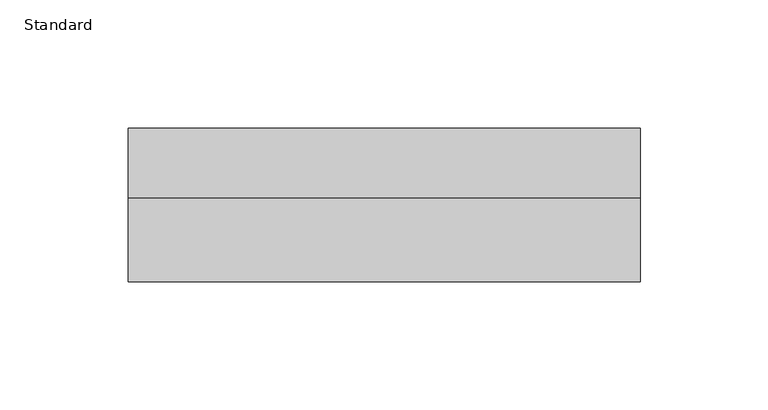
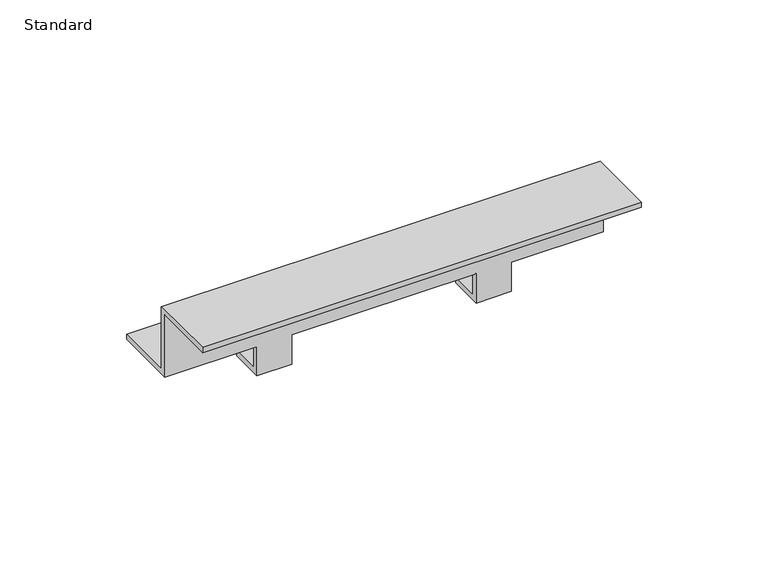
"""IFC4 building model written with IfcOpenShell, lengths in millimetres: electric appliance geometry, Bracket-Wall-Cablofil : Standard."""

from ifc_helpers import new_model, si_unit, origin, place, context, project, spatial, faceted_brep, source, transform, mapped, element, save


def standard_966c1fd9(model_context):
    return source(origin(), model_context, "Body", "Brep", [
        faceted_brep([(42.0, 15.93, 0.0), (42.0, 0.0, 0.0), (42.0, 0.0, 14.0), (42.0, 2.5, 14.0), (42.0, 2.5, 2.5), (42.0, 15.93, 2.5), (58.0, 15.93, 0.0), (58.0, 15.93, 2.5), (58.0, 2.5, 2.5), (58.0, 2.5, 14.0), (58.0, 0.0, 14.0), (58.0, 0.0, 0.0), (100.0, 0.0, 14.0), (100.0, 0.0, 44.0), (-100.0, 0.0, 44.0), (-100.0, 0.0, 14.0), (-58.0, 0.0, 14.0), (-58.0, 0.0, 0.0), (-42.0, 0.0, 0.0), (-42.0, 0.0, 14.0), (-58.0, 15.93, 0.0), (-58.0, 2.5, 14.0), (-58.0, 2.5, 2.5), (-58.0, 15.93, 2.5), (-42.0, 15.93, 0.0), (-42.0, 15.93, 2.5), (-42.0, 2.5, 2.5), (-42.0, 2.5, 14.0), (-100.0, -30.0, 44.0), (-100.0, -30.0, 46.5), (-100.0, 2.5, 46.5), (-100.0, 2.5, 16.5), (-100.0, 30.0, 16.5), (-100.0, 30.0, 14.0), (100.0, -30.0, 44.0), (100.0, 30.0, 14.0), (100.0, 30.0, 16.5), (100.0, 2.5, 16.5), (100.0, 2.5, 46.5), (100.0, -30.0, 46.5)], [[[0, 1, 2, 3, 4, 5]], [[6, 7, 8, 9, 10, 11]], [[0, 5, 7, 6]], [[5, 4, 8, 7]], [[4, 3, 9, 8]], [[2, 1, 11, 10, 12, 13, 14, 15, 16, 17, 18, 19]], [[1, 0, 6, 11]], [[20, 17, 16, 21, 22, 23]], [[24, 25, 26, 27, 19, 18]], [[20, 23, 25, 24]], [[23, 22, 26, 25]], [[22, 21, 27, 26]], [[17, 20, 24, 18]], [[28, 29, 30, 31, 32, 33, 15, 14]], [[34, 13, 12, 35, 36, 37, 38, 39]], [[28, 14, 13, 34]], [[15, 33, 35, 12, 10, 9, 3, 2, 19, 27, 21, 16]], [[33, 32, 36, 35]], [[32, 31, 37, 36]], [[31, 30, 38, 37]], [[30, 29, 39, 38]], [[29, 28, 34, 39]]]),
    ])


if __name__ == "__main__":
    model = new_model("IFC4")
    model_context = context("Model", 3, world=origin())
    ifc_project = project(units=[si_unit("LENGTHUNIT", "METRE", prefix="MILLI")], contexts=[model_context])
    site = spatial("IfcSite", under=ifc_project)
    building = spatial("IfcBuilding", under=site)
    placement = place(None, origin())
    standard_shape = standard_966c1fd9(model_context)
    element("IfcElectricAppliance", 1, ObjectType="Bracket-Wall-Cablofil : Standard", at=placement, inside=building, context=model_context, shape_type="MappedRepresentation", body=[
        mapped(standard_shape, transform((0.0, 0.0, 0.0), x_axis=(1.0, 0.0, 0.0), y_axis=(0.0, 1.0, 0.0), z_axis=(0.0, 0.0, 1.0))),
    ])
    save(model, "model.ifc")
